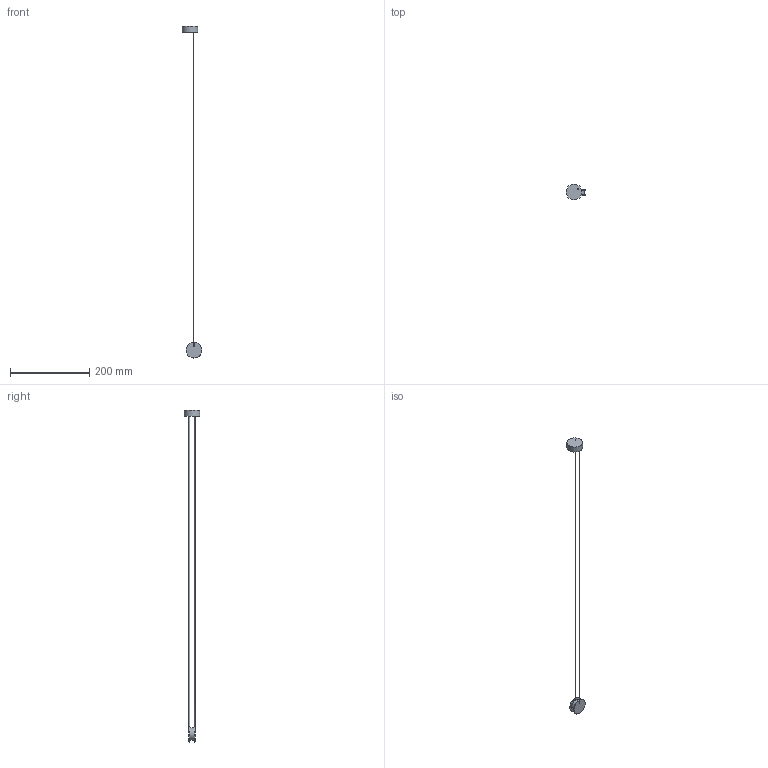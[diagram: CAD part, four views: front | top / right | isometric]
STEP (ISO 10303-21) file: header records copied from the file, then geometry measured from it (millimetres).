
FILE_DESCRIPTION(/* description */ (''),/* implementation_level */ '2;1');
FILE_NAME(/* name */ 'BENDING ACCESSORY.stp',/* time_stamp */ '2025-02-27T17:40:47+01:00',/* author */ ('n.bisotti'),/* organization */ (''),/* preprocessor_version */ 'ST-DEVELOPER v19.2',/* originating_system */ 'Autodesk Inventor 2023',/* authorisation */ '');
FILE_SCHEMA (('AUTOMOTIVE_DESIGN { 1 0 10303 214 3 1 1 }'));
Length unit declared in the file: millimetre
Products named in the file (1): Parte3
Bounding box: 50 x 40 x 840 mm (x, y, z)
Volume: 36329.5 mm3; surface area: 17640 mm2
Topology: 3 solids, 4 shells, 42 faces, 100 edges, 63 vertices
Faces by surface type: cylinder 18, plane 13, torus 6, bspline 4, sphere 1
Full cylindrical faces by diameter (mm): 1.5 x3, 2 x3, 31 x1, 40 x3
Entity records: 2129 total; most frequent: CARTESIAN_POINT 1090, ORIENTED_EDGE 190, DIRECTION 186, EDGE_CURVE 95, AXIS2_PLACEMENT_3D 78, VERTEX_POINT 63, EDGE_LOOP 48, STYLED_ITEM 45
